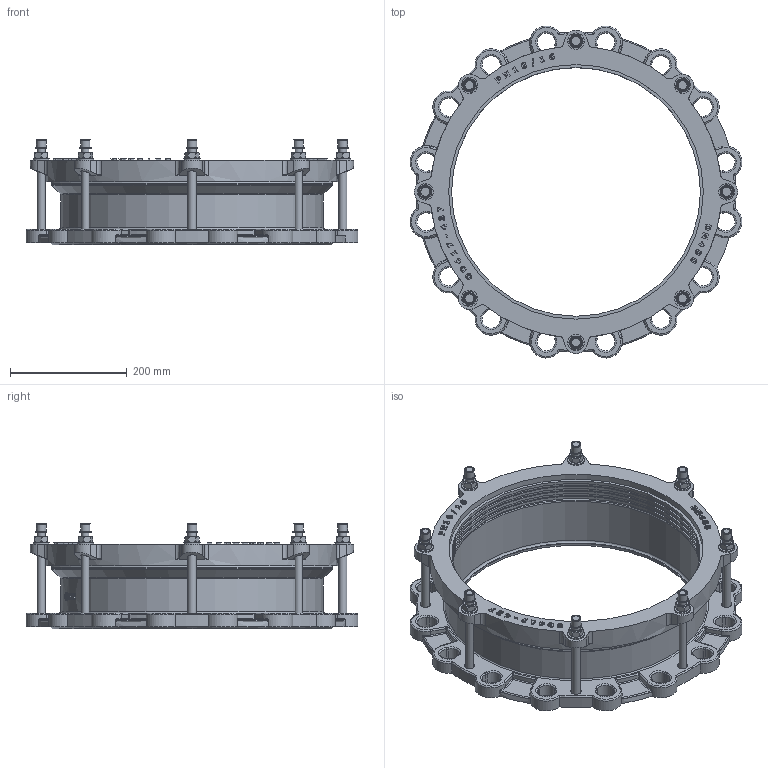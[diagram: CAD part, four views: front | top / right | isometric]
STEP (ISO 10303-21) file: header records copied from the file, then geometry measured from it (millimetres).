
FILE_DESCRIPTION(('STEP AP203'), '1');
FILE_NAME('Ôëàíöåâûé àäàïòåð', '', ('UNSPECIFIED'), ('UNSPECIFIED'), 'C3D Converter', 'C3D Toolkit', '');
FILE_SCHEMA(('CONFIG_CONTROL_DESIGN'));
Length unit declared in the file: millimetre
Assembly tree (35 placements, depth 2):
  (unnamed)
    (unnamed)
    (unnamed)  x8
    (unnamed)  x8
    (unnamed)  x8
    (unnamed)  x8
    (unnamed)
    (unnamed)
Bounding box: 569.89 x 569.89 x 181.4 mm (x, y, z)
Volume: 5140808.2 mm3; surface area: 1104420 mm2
Topology: 35 solids, 35 shells, 1484 faces, 3685 edges, 2232 vertices
Faces by surface type: plane 522, cylinder 415, extrusion 244, torus 139, cone 60, bspline 60, sphere 44
Full cylindrical faces by diameter (mm): 13.478 x1, 14 x24, 15 x8, 16 x16, 16.8 x8, 19.6 x8, 28 x8, 427 x5, 432 x3, 437 x2, 444 x1, 451 x2, 482.5 x1, 486 x2, 500 x1
Entity records: 53184 total; most frequent: CARTESIAN_POINT 20781, ORIENTED_EDGE 5910, DIRECTION 5289, EDGE_CURVE 2955, VERTEX_POINT 1868, AXIS2_PLACEMENT_3D 1859, VECTOR 1571, EDGE_LOOP 1395
